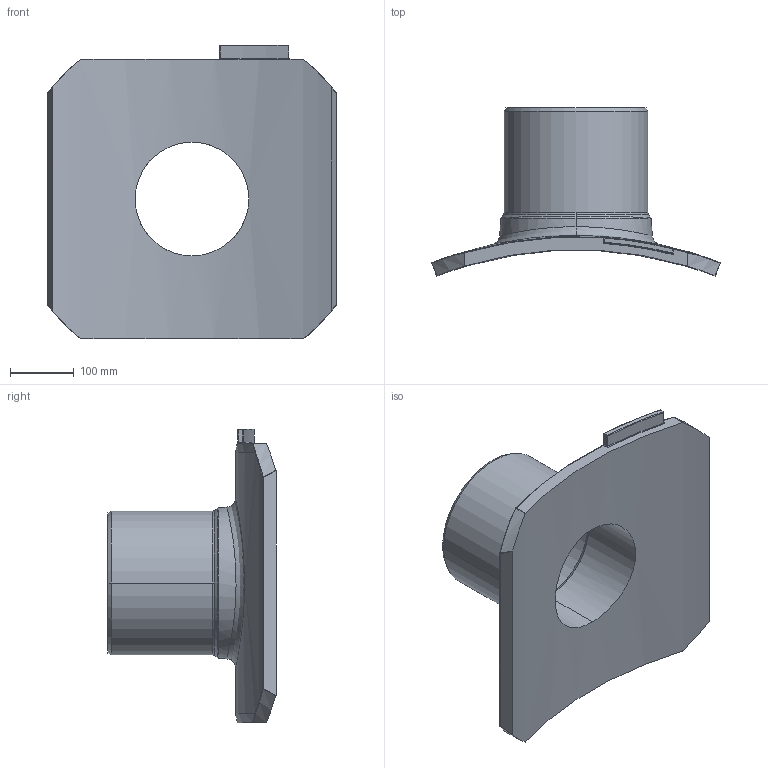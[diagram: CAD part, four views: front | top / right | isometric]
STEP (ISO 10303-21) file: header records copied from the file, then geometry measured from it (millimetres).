
FILE_DESCRIPTION((''),'2;1');
FILE_NAME('SA-UNI_D1200_225-01','2024-07-01T11:01:19',('mikulicp'),(''),'CREO PARAMETRIC BY PTC INC, 2022124','CREO PARAMETRIC BY PTC INC, 2022124','');
FILE_SCHEMA(('AP242_MANAGED_MODEL_BASED_3D_ENGINEERING_MIM_LF { 1 0 10303 442 1 1 4 }'));
Length unit declared in the file: millimetre
Products named in the file (2): SA-UNI_D1200_225-01; PE100
Bounding box: 451.18 x 262.97 x 460 mm (x, y, z)
Volume: 6752311.7 mm3; surface area: 644424.1 mm2
Topology: 1 solids, 1 shells, 220 faces, 547 edges, 345 vertices
Faces by surface type: bspline 70, plane 68, cylinder 47, sphere 12, cone 12, torus 11
Entity records: 14310 total; most frequent: CARTESIAN_POINT 6674, ORIENTED_EDGE 1094, DIRECTION 783, PRESENTATION_STYLE_ASSIGNMENT 559, STYLED_ITEM 548, CURVE_STYLE 547, EDGE_CURVE 547, VERTEX_POINT 345
